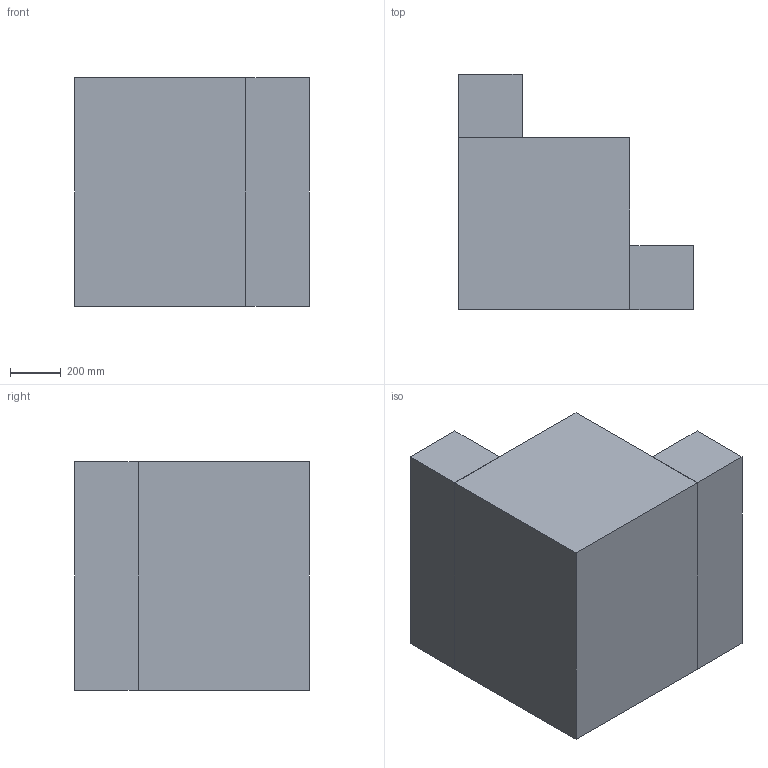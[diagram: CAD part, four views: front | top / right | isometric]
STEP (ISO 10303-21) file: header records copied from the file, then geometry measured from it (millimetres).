
FILE_DESCRIPTION (( 'STEP AP203' ), '1' );
FILE_NAME ('Type B.STEP', '2019-01-15T13:43:51', ( '' ), ( '' ), 'SwSTEP 2.0', 'SolidWorks 2019', '' );
FILE_SCHEMA (( 'CONFIG_CONTROL_DESIGN' ));
Length unit declared in the file: millimetre
Products named in the file (3): Type B; Extrabox Step_Domy˜lna; Extrabox Type F_Domy˜lna
Assembly tree (3 placements, depth 2):
  Type B
    Extrabox Type F_Domy˜lna
    Extrabox Step_Domy˜lna  x2
Bounding box: 925 x 925 x 900 mm (x, y, z)
Volume: 522562500 mm3; surface area: 5391250 mm2
Topology: 3 solids, 3 shells, 18 faces, 36 edges, 24 vertices
Faces by surface type: plane 18
Entity records: 645 total; most frequent: DIRECTION 60, CARTESIAN_POINT 58, ORIENTED_EDGE 48, PERSON_AND_ORGANIZATION 27, VECTOR 24, LINE 24, EDGE_CURVE 24, COORDINATED_UNIVERSAL_TIME_OFFSET 21
